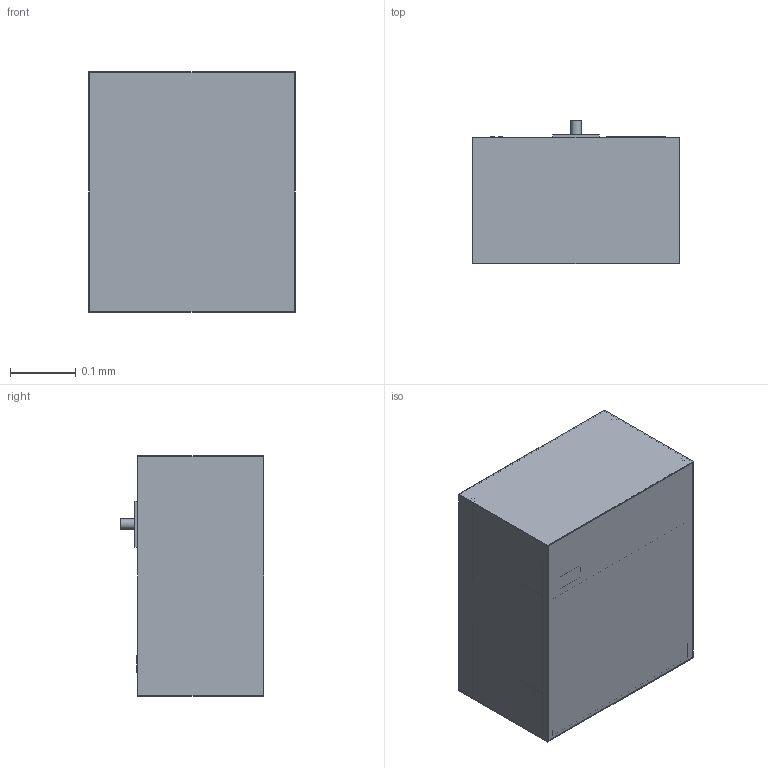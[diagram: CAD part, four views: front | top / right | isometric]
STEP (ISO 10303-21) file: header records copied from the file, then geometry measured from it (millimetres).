
FILE_DESCRIPTION(('Open CASCADE Model'),'2;1');
FILE_NAME('Open CASCADE Shape Model','2026-10-04T13:16:47',('Author'),( 'Open CASCADE'),'Open CASCADE STEP processor 7.9','Open CASCADE 7.9' ,'Unknown');
FILE_SCHEMA(('AUTOMOTIVE_DESIGN { 1 0 10303 214 1 1 1 1 }'));
Length unit declared in the file: millimetre
Products named in the file (162): MOD-bone-cells; store__aliquot_rack; store__aliquot_tubes; fluid__media_1_103_mL; fluid__media_1_port; fluid__media_2_103_mL; fluid__media_2_port; fluid__RANKL_M_CSF_103_mL; fluid__RANKL_M_CSF_port; fluid__osteogenic_supplements_103_mL; fluid__osteogenic_supplements_port; fluid__calcein_103_mL; fluid__calcein_port; fluid__fixative_103_mL; fluid__fixative_port; fluid__RNA_stabilizing_reagent_103_mL; fluid__RNA_stabilizing_reagent_port; fluid__PBS_103_mL; fluid__PBS_port; fluid__waste_bag_empty_at_launch_309_mL_capacity_under_the_reagent_
bags; fluid__waste_bag_port; pump__fluid_manifold; pump__micro_pump_1; pump__micro_pump_2; pump__valve_1; pump__valve_2; pump__valve_3; pump__valve_4; pump__manifold_inlet; pump__manifold_outlet; imaging__microscope_base_optics_filter_cubes_camera; imaging__objective; imaging__stage_post_1; imaging__stage_post_2; imaging__stage_post_3; imaging__stage_post_4; imaging__XY_stage_frame_travel_96_5_x_57_9_mm_every_well_over_the_
objective; imaging__stage_carriage; imaging__X_stepper; imaging__Y_stepper ...
Assembly tree (161 placements, depth 2):
  MOD-bone-cells
    store__aliquot_rack
    store__aliquot_tubes
    fluid__media_1_103_mL
    fluid__media_1_port
    fluid__media_2_103_mL
    fluid__media_2_port
    fluid__RANKL_M_CSF_103_mL
    fluid__RANKL_M_CSF_port
    fluid__osteogenic_supplements_103_mL
    fluid__osteogenic_supplements_port
    fluid__calcein_103_mL
    fluid__calcein_port
    fluid__fixative_103_mL
    fluid__fixative_port
    fluid__RNA_stabilizing_reagent_103_mL
    fluid__RNA_stabilizing_reagent_port
    fluid__PBS_103_mL
    fluid__PBS_port
    fluid__waste_bag_empty_at_launch_309_mL_capacity_under_the_reagent_
bags
    fluid__waste_bag_port
    pump__fluid_manifold
    pump__micro_pump_1
    pump__micro_pump_2
    pump__valve_1
    pump__valve_2
    pump__valve_3
    pump__valve_4
    pump__manifold_inlet
    pump__manifold_outlet
    imaging__microscope_base_optics_filter_cubes_camera
    imaging__objective
    imaging__stage_post_1
    imaging__stage_post_2
    imaging__stage_post_3
    imaging__stage_post_4
    imaging__XY_stage_frame_travel_96_5_x_57_9_mm_every_well_over_the_
objective
    imaging__stage_carriage
    imaging__X_stepper
    imaging__Y_stepper
    imaging__illumination_column
    imaging__illumination_arm
    imaging__arm_to_head
    imaging__LED_head_transmitted_light
    sample__cassette_24_wells_SBS_footprint_19_3_mm_pitch
    sample__culture_in_the_wells
    sample__cassette_lid_sealed_and_gas_permeable
    sample__cassette_fluid_port_1
    sample__cassette_fluid_port_2
    sample__m80_C_passive_cryo_cassette_vacuum_insulated_body
    sample__cryo_cassette_cap
    electronics__controller_enclosure_boards_data_storage
    electronics__connector_1
    electronics__connector_2
    sensor__sensor_pack
    sensor__sensor_pack_head_1
    sensor__sensor_pack_head_2
    housing__bottom_panel
    housing__top_panel
    housing__side_panel_L
Bounding box: 0.31 x 0.22 x 0.37 mm (x, y, z)
Volume: 0 mm3; surface area: 2.1 mm2
Topology: 284 solids, 284 shells, 1361 faces, 2307 edges, 1538 vertices
Faces by surface type: plane 1156, cylinder 205
Full cylindrical faces by diameter (mm): 0.003 x69, 0.005 x29, 0.006 x4, 0.008 x2, 0.009 x4, 0.01 x4, 0.012 x2, 0.015 x24, 0.016 x25, 0.02 x2, 0.022 x1, 0.028 x1, 0.078 x1, 0.08 x1
Entity records: 66330 total; most frequent: DIRECTION 10341, CARTESIAN_POINT 10198, LINE 6101, VECTOR 6101, ORIENTED_EDGE 4614, PCURVE 4614, DEFINITIONAL_REPRESENTATION 4614, EDGE_CURVE 2307
